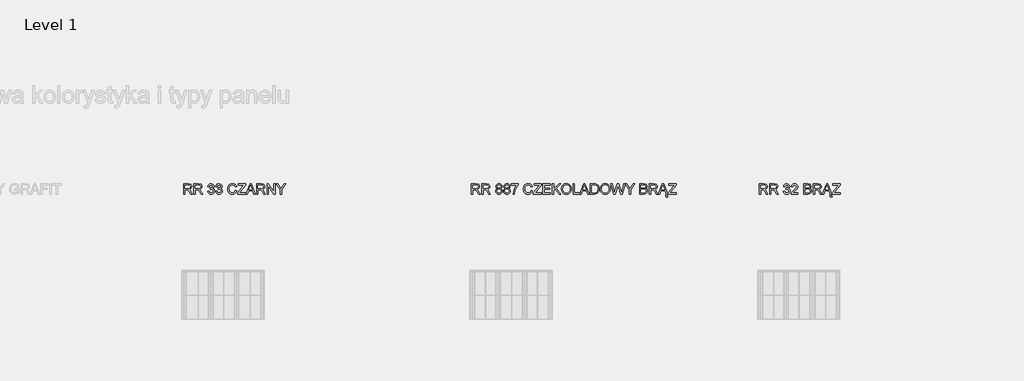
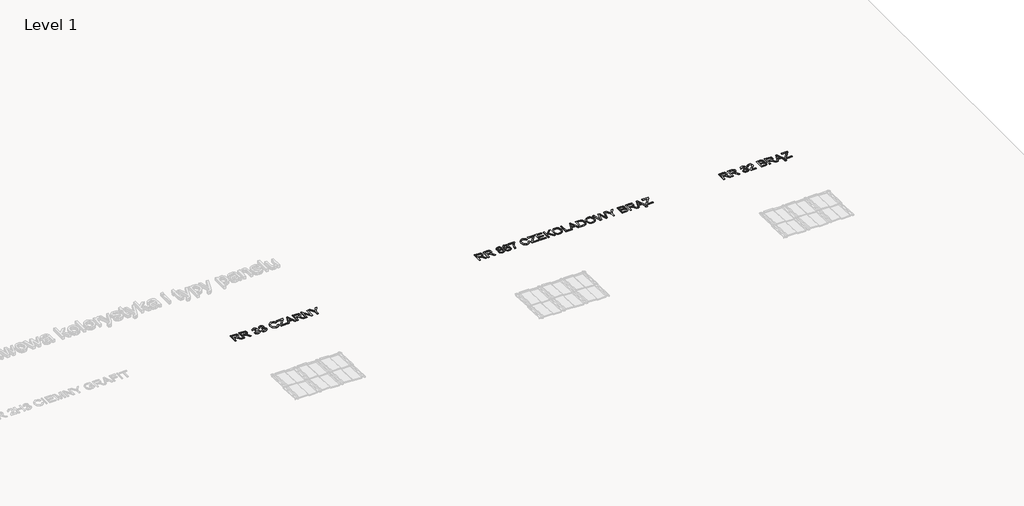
# One storey, part 8 of 9: 3 proxies.
"""IFC4 building model written with IfcOpenShell, lengths in millimetres."""

from ifc_helpers import new_model, si_unit, frame, origin, place, context, project, spatial, polyline, outline, extrude, element, save

model = new_model("IFC4")

# Units and contexts
model_context = context("Model", 3, world=origin())
ifc_project = project(units=[si_unit("LENGTHUNIT", "METRE", prefix="MILLI")], contexts=[model_context])

# Site, building, storey
site = spatial("IfcSite", under=ifc_project)
building = spatial("IfcBuilding", under=site)
storey = spatial("IfcBuildingStorey", under=building, Name="Level 1", Elevation=0.0)

# Proxies
placement = place(None, origin())
element("IfcBuildingElementProxy", 1, Name="150 Blue", ObjectType="150 Blue", at=placement, inside=storey, context=model_context, shape_type="SweptSolid", body=[
    extrude(outline(polyline([(-4536.4118342, 1464.3485888), (-4536.4118342, 1615.033054), (-4471.4806621, 1615.033054), (-4441.3327325, 1610.967958), (-4432.0529092, 1605.3393635), (-4424.8516192, 1596.583772), (-4420.2301016, 1585.7266546), (-4418.6895957, 1573.7934824), (-4421.2417771, 1558.9494439), (-4428.8983211, 1546.6437911), (-4441.8891541, 1537.6214852), (-4460.4442022, 1532.6274871), (-4449.7388361, 1524.5708714), (-4434.4717333, 1505.1834903), (-4409.3453931, 1464.3485888), (-4431.2343718, 1464.3485888), (-4450.8424821, 1495.5817702), (-4465.0059389, 1516.2567383), (-4474.9571469, 1526.0240053), (-4483.9150735, 1529.6108548), (-4494.8411687, 1530.2730423), (-4517.576276, 1530.2730423), (-4517.576276, 1464.3485888), (-4536.4118342, 1464.3485888)]), holes=[polyline([(-4517.576276, 1549.1086005), (-4475.4169994, 1549.1086005), (-4453.9142968, 1551.775745), (-4441.7006145, 1560.3106073), (-4437.5251539, 1573.0945066), (-4439.5163152, 1582.2823594), (-4445.4897991, 1589.6859846), (-4455.7675023, 1594.5696181), (-4470.6713217, 1596.1974959), (-4517.576276, 1596.1974959), (-4517.576276, 1549.1086005)])]), frame((0.0, 0.0, 600.0), z_axis=(0.0, 0.0, 1.0), x_axis=(1.0, 0.0, 0.0)), (0.0, 0.0, 1.0), 10.0),
    extrude(outline(polyline([(-4385.727369, 1464.3485888), (-4385.727369, 1615.033054), (-4320.7961968, 1615.033054), (-4290.6482673, 1610.967958), (-4281.368444, 1605.3393635), (-4274.1671539, 1596.583772), (-4269.5456364, 1585.7266546), (-4268.0051305, 1573.7934824), (-4270.5573119, 1558.9494439), (-4278.2138559, 1546.6437911), (-4291.2046888, 1537.6214852), (-4309.759737, 1532.6274871), (-4299.0543709, 1524.5708714), (-4283.7872681, 1505.1834903), (-4258.6609278, 1464.3485888), (-4280.5499066, 1464.3485888), (-4300.1580169, 1495.5817702), (-4314.3214737, 1516.2567383), (-4324.2726817, 1526.0240053), (-4333.2306083, 1529.6108548), (-4344.1567035, 1530.2730423), (-4366.8918108, 1530.2730423), (-4366.8918108, 1464.3485888), (-4385.727369, 1464.3485888)]), holes=[polyline([(-4366.8918108, 1549.1086005), (-4324.7325342, 1549.1086005), (-4303.2298316, 1551.775745), (-4291.0161493, 1560.3106073), (-4286.8406887, 1573.0945066), (-4288.83185, 1582.2823594), (-4294.8053339, 1589.6859846), (-4305.0830371, 1594.5696181), (-4319.9868564, 1596.1974959), (-4366.8918108, 1596.1974959), (-4366.8918108, 1549.1086005)])]), frame((0.0, 0.0, 600.0), z_axis=(0.0, 0.0, 1.0), x_axis=(1.0, 0.0, 0.0)), (0.0, 0.0, 1.0), 10.0),
    extrude(outline(polyline([(-4183.2451188, 1504.3741499), (-4164.4095607, 1506.7285947), (-4160.1927133, 1494.8919915), (-4154.0168943, 1486.8997551), (-4145.5786011, 1482.3472154), (-4134.5743309, 1480.8297022), (-4121.6616728, 1482.9174325), (-4111.6920708, 1489.1806235), (-4105.3185152, 1498.5248262), (-4103.1939967, 1509.8555916), (-4105.3001211, 1520.6115414), (-4111.6184944, 1529.3349433), (-4121.1834262, 1535.1152891), (-4133.0292265, 1537.0420711), (-4146.2361901, 1534.9819319), (-4144.1392627, 1553.81749), (-4141.1226304, 1553.5967608), (-4119.7486865, 1559.0046262), (-4112.6301699, 1565.8656254), (-4110.257331, 1575.6328924), (-4111.9771793, 1583.767683), (-4117.1367243, 1590.3665663), (-4125.009399, 1594.7397635), (-4134.8686365, 1596.1974959), (-4144.746268, 1594.7259679), (-4152.8212778, 1590.311384), (-4158.7165868, 1582.9537441), (-4162.0551159, 1572.6530482), (-4180.8906741, 1575.007493), (-4175.344853, 1591.9208677), (-4165.4764185, 1604.5484172), (-4151.9751492, 1612.4118948), (-4135.5308241, 1615.033054), (-4112.8141109, 1609.864312), (-4096.9216087, 1595.7376434), (-4091.4217728, 1576.7365383), (-4096.6456972, 1559.3725082), (-4112.096741, 1546.9013085), (-4100.306123, 1542.1372367), (-4091.5689256, 1534.0254387), (-4086.1610603, 1523.0073729), (-4084.3584385, 1509.5244978), (-4087.9636821, 1491.1671863), (-4098.7794127, 1475.8265071), (-4115.1041763, 1465.4522348), (-4135.2365185, 1461.994144), (-4153.4466772, 1464.9463971), (-4168.2723216, 1473.8031561), (-4178.5822145, 1487.3504106), (-4183.2451188, 1504.3741499)])), frame((0.0, 0.0, 600.0), z_axis=(0.0, 0.0, 1.0), x_axis=(1.0, 0.0, 0.0)), (0.0, 0.0, 1.0), 10.0),
    extrude(outline(polyline([(-4067.8773251, 1504.3741499), (-4049.041767, 1506.7285947), (-4044.8249196, 1494.8919915), (-4038.6491006, 1486.8997551), (-4030.2108074, 1482.3472154), (-4019.2065372, 1480.8297022), (-4006.2938792, 1482.9174325), (-3996.3242771, 1489.1806235), (-3989.9507215, 1498.5248262), (-3987.826203, 1509.8555916), (-3989.9323274, 1520.6115414), (-3996.2507007, 1529.3349433), (-4005.8156326, 1535.1152891), (-4017.6614328, 1537.0420711), (-4030.8683964, 1534.9819319), (-4028.7714691, 1553.81749), (-4025.7548367, 1553.5967608), (-4004.3808928, 1559.0046262), (-3997.2623762, 1565.8656254), (-3994.8895373, 1575.6328924), (-3996.6093856, 1583.767683), (-4001.7689306, 1590.3665663), (-4009.6416053, 1594.7397635), (-4019.5008428, 1596.1974959), (-4029.3784744, 1594.7259679), (-4037.4534841, 1590.311384), (-4043.3487931, 1582.9537441), (-4046.6873222, 1572.6530482), (-4065.5228804, 1575.007493), (-4059.9770593, 1591.9208677), (-4050.1086248, 1604.5484172), (-4036.6073556, 1612.4118948), (-4020.1630304, 1615.033054), (-3997.4463172, 1609.864312), (-3981.553815, 1595.7376434), (-3976.0539791, 1576.7365383), (-3981.2779035, 1559.3725082), (-3996.7289473, 1546.9013085), (-3984.9383293, 1542.1372367), (-3976.2011319, 1534.0254387), (-3970.7932666, 1523.0073729), (-3968.9906448, 1509.5244978), (-3972.5958884, 1491.1671863), (-3983.4116191, 1475.8265071), (-3999.7363826, 1465.4522348), (-4019.8687248, 1461.994144), (-4038.0788835, 1464.9463971), (-4052.9045279, 1473.8031561), (-4063.2144209, 1487.3504106), (-4067.8773251, 1504.3741499)])), frame((0.0, 0.0, 600.0), z_axis=(0.0, 0.0, 1.0), x_axis=(1.0, 0.0, 0.0)), (0.0, 0.0, 1.0), 10.0),
    extrude(outline(polyline([(-3780.6350633, 1517.9122073), (-3761.7995052, 1513.056165), (-3770.4907173, 1491.1074054), (-3784.1299423, 1475.072349), (-3802.0457954, 1465.2636953), (-3823.5668921, 1461.994144), (-3845.4144841, 1464.4681505), (-3862.7647187, 1471.8901697), (-3876.0636529, 1484.0026844), (-3885.7573434, 1500.5481771), (-3891.675645, 1519.9999376), (-3893.6484122, 1540.8312556), (-3891.4181276, 1562.8030078), (-3884.7272738, 1581.7765217), (-3873.9253388, 1597.1493905), (-3859.3618103, 1608.3192076), (-3842.0897506, 1615.120426), (-3823.162222, 1617.3874988), (-3802.5102464, 1614.4536399), (-3785.4359233, 1605.6520632), (-3772.4726815, 1591.5253945), (-3764.1539499, 1572.61626), (-3782.9895081, 1568.1280997), (-3789.5194135, 1581.8638936), (-3798.4405519, 1591.2862712), (-3809.8632878, 1596.7355233), (-3823.8979859, 1598.5519407), (-3840.0755967, 1596.5377867), (-3853.3653338, 1590.495325), (-3863.449899, 1581.0591518), (-3870.011994, 1568.8638636), (-3874.8128541, 1540.8680438), (-3873.3919099, 1523.4672254), (-3869.1290773, 1508.4208518), (-3861.8634078, 1496.3037386), (-3851.4339533, 1487.6907014), (-3838.930564, 1482.544952), (-3825.4430903, 1480.8297022), (-3809.7207336, 1483.1657529), (-3796.619536, 1490.1739049), (-3786.7281089, 1501.7805818), (-3780.6350633, 1517.9122073)])), frame((0.0, 0.0, 600.0), z_axis=(0.0, 0.0, 1.0), x_axis=(1.0, 0.0, 0.0)), (0.0, 0.0, 1.0), 10.0),
    extrude(outline(polyline([(-3747.6728365, 1464.3485888), (-3747.6728365, 1483.8831228), (-3670.6383468, 1578.2816427), (-3655.9966433, 1596.1974959), (-3738.2550575, 1596.1974959), (-3738.2550575, 1615.033054), (-3632.3050429, 1615.033054), (-3632.3050429, 1596.1974959), (-3716.6235962, 1492.8962316), (-3724.5698472, 1483.184147), (-3629.9505981, 1483.184147), (-3629.9505981, 1464.3485888), (-3747.6728365, 1464.3485888)])), frame((0.0, 0.0, 600.0), z_axis=(0.0, 0.0, 1.0), x_axis=(1.0, 0.0, 0.0)), (0.0, 0.0, 1.0), 10.0),
    extrude(outline(polyline([(-3626.2717781, 1464.3485888), (-3566.1230719, 1615.033054), (-3550.0834169, 1615.033054), (-3489.9714989, 1464.3485888), (-3509.8739149, 1464.3485888), (-3527.0907922, 1511.4374842), (-3589.189273, 1511.4374842), (-3606.4061504, 1464.3485888), (-3626.2717781, 1464.3485888)]), holes=[polyline([(-3582.2730915, 1530.2730423), (-3533.9701855, 1530.2730423), (-3547.5818194, 1567.3187593), (-3558.1400326, 1596.1974959), (-3567.5210235, 1570.5561208), (-3582.2730915, 1530.2730423)])]), frame((0.0, 0.0, 600.0), z_axis=(0.0, 0.0, 1.0), x_axis=(1.0, 0.0, 0.0)), (0.0, 0.0, 1.0), 10.0),
    extrude(outline(polyline([(-3469.8483538, 1464.3485888), (-3469.8483538, 1615.033054), (-3404.9171816, 1615.033054), (-3374.7692521, 1610.967958), (-3365.4894288, 1605.3393635), (-3358.2881387, 1596.583772), (-3353.6666212, 1585.7266546), (-3352.1261153, 1573.7934824), (-3354.6782967, 1558.9494439), (-3362.3348407, 1546.6437911), (-3375.3256737, 1537.6214852), (-3393.8807218, 1532.6274871), (-3383.1753557, 1524.5708714), (-3367.9082529, 1505.1834903), (-3342.7819127, 1464.3485888), (-3364.6708914, 1464.3485888), (-3384.2790017, 1495.5817702), (-3398.4424585, 1516.2567383), (-3408.3936665, 1526.0240053), (-3417.3515931, 1529.6108548), (-3428.2776883, 1530.2730423), (-3451.0127956, 1530.2730423), (-3451.0127956, 1464.3485888), (-3469.8483538, 1464.3485888)]), holes=[polyline([(-3451.0127956, 1549.1086005), (-3408.853519, 1549.1086005), (-3387.3508164, 1551.775745), (-3375.1371341, 1560.3106073), (-3370.9616735, 1573.0945066), (-3372.9528348, 1582.2823594), (-3378.9263187, 1589.6859846), (-3389.2040219, 1594.5696181), (-3404.1078412, 1596.1974959), (-3451.0127956, 1596.1974959), (-3451.0127956, 1549.1086005)])]), frame((0.0, 0.0, 600.0), z_axis=(0.0, 0.0, 1.0), x_axis=(1.0, 0.0, 0.0)), (0.0, 0.0, 1.0), 10.0),
    extrude(outline(polyline([(-3319.1638886, 1464.3485888), (-3319.1638886, 1615.033054), (-3299.0039552, 1615.033054), (-3220.2772083, 1495.6553466), (-3220.2772083, 1615.033054), (-3201.4416501, 1615.033054), (-3201.4416501, 1464.3485888), (-3221.6015834, 1464.3485888), (-3300.3283304, 1583.7630844), (-3300.3283304, 1464.3485888), (-3319.1638886, 1464.3485888)])), frame((0.0, 0.0, 600.0), z_axis=(0.0, 0.0, 1.0), x_axis=(1.0, 0.0, 0.0)), (0.0, 0.0, 1.0), 10.0),
    extrude(outline(polyline([(-3126.0994175, 1464.3485888), (-3126.0994175, 1528.176115), (-3184.9605367, 1615.033054), (-3162.7772524, 1615.033054), (-3131.36013, 1568.6431344), (-3115.2836868, 1544.951534), (-3099.1336672, 1570.3353916), (-3070.6228126, 1615.033054), (-3048.4027401, 1615.033054), (-3107.2638593, 1528.176115), (-3107.2638593, 1464.3485888), (-3126.0994175, 1464.3485888)])), frame((0.0, 0.0, 600.0), z_axis=(0.0, 0.0, 1.0), x_axis=(1.0, 0.0, 0.0)), (0.0, 0.0, 1.0), 10.0),
])
element("IfcBuildingElementProxy", 2, Name="150 Blue", ObjectType="150 Blue", at=placement, inside=storey, context=model_context, shape_type="SweptSolid", body=[
    extrude(outline(polyline([(-336.4118342, 1464.3485888), (-336.4118342, 1615.033054), (-271.4806621, 1615.033054), (-241.3327325, 1610.967958), (-232.0529092, 1605.3393635), (-224.8516192, 1596.583772), (-220.2301016, 1585.7266546), (-218.6895957, 1573.7934824), (-221.2417771, 1558.9494439), (-228.8983211, 1546.6437911), (-241.8891541, 1537.6214852), (-260.4442022, 1532.6274871), (-249.7388361, 1524.5708714), (-234.4717333, 1505.1834903), (-209.3453931, 1464.3485888), (-231.2343718, 1464.3485888), (-250.8424821, 1495.5817702), (-265.0059389, 1516.2567383), (-274.9571469, 1526.0240053), (-283.9150735, 1529.6108548), (-294.8411687, 1530.2730423), (-317.576276, 1530.2730423), (-317.576276, 1464.3485888), (-336.4118342, 1464.3485888)]), holes=[polyline([(-317.576276, 1549.1086005), (-275.4169994, 1549.1086005), (-253.9142968, 1551.775745), (-241.7006145, 1560.3106073), (-237.5251539, 1573.0945066), (-239.5163152, 1582.2823594), (-245.4897991, 1589.6859846), (-255.7675023, 1594.5696181), (-270.6713217, 1596.1974959), (-317.576276, 1596.1974959), (-317.576276, 1549.1086005)])]), frame((0.0, 0.0, 600.0), z_axis=(0.0, 0.0, 1.0), x_axis=(1.0, 0.0, 0.0)), (0.0, 0.0, 1.0), 10.0),
    extrude(outline(polyline([(-185.727369, 1464.3485888), (-185.727369, 1615.033054), (-120.7961968, 1615.033054), (-90.6482673, 1610.967958), (-81.368444, 1605.3393635), (-74.1671539, 1596.583772), (-69.5456364, 1585.7266546), (-68.0051305, 1573.7934824), (-70.5573119, 1558.9494439), (-78.2138559, 1546.6437911), (-91.2046888, 1537.6214852), (-109.759737, 1532.6274871), (-99.0543709, 1524.5708714), (-83.7872681, 1505.1834903), (-58.6609278, 1464.3485888), (-80.5499066, 1464.3485888), (-100.1580169, 1495.5817702), (-114.3214737, 1516.2567383), (-124.2726817, 1526.0240053), (-133.2306083, 1529.6108548), (-144.1567035, 1530.2730423), (-166.8918108, 1530.2730423), (-166.8918108, 1464.3485888), (-185.727369, 1464.3485888)]), holes=[polyline([(-166.8918108, 1549.1086005), (-124.7325342, 1549.1086005), (-103.2298316, 1551.775745), (-91.0161493, 1560.3106073), (-86.8406887, 1573.0945066), (-88.83185, 1582.2823594), (-94.8053339, 1589.6859846), (-105.0830371, 1594.5696181), (-119.9868564, 1596.1974959), (-166.8918108, 1596.1974959), (-166.8918108, 1549.1086005)])]), frame((0.0, 0.0, 600.0), z_axis=(0.0, 0.0, 1.0), x_axis=(1.0, 0.0, 0.0)), (0.0, 0.0, 1.0), 10.0),
    extrude(outline(polyline([(44.198878, 1547.3427669), (27.0371829, 1559.0414144), (21.4637707, 1577.2515731), (24.4987972, 1591.97605), (33.6038765, 1604.143747), (47.7581363, 1612.3107273), (65.9407039, 1615.033054), (84.2336361, 1612.2463479), (98.5718369, 1603.8862296), (107.8424632, 1591.5253945), (110.9326719, 1576.7365383), (105.4328361, 1558.9862321), (88.7493876, 1547.3427669), (100.342269, 1541.369283), (108.7805623, 1532.5723048), (113.9263117, 1521.3748966), (115.6415615, 1508.2001226), (112.238653, 1490.192299), (102.0299276, 1475.3114723), (86.2661842, 1465.3234761), (66.1982213, 1461.994144), (46.1302585, 1465.3372717), (30.366515, 1475.3666546), (20.1577896, 1490.3900355), (16.7548812, 1508.7151574), (18.5391088, 1522.4003677), (23.8917919, 1533.6575567), (32.5370188, 1542.1004485), (44.198878, 1547.3427669)]), holes=[polyline([(40.2993289, 1576.6997501), (41.9685934, 1568.4775875), (46.9763871, 1561.9108939), (55.175557, 1557.6066746), (66.4189505, 1556.1719348), (77.4002281, 1557.5974775), (85.4752379, 1561.8741057), (90.4416448, 1568.2200702), (92.0971138, 1575.8536216), (90.3864625, 1583.77688), (85.2545087, 1590.3297781), (77.0691343, 1594.7305664), (66.1982213, 1596.1974959), (55.2583305, 1594.7627561), (47.0867517, 1590.4585368), (41.9961846, 1584.1493605), (40.2993289, 1576.6997501)]), polyline([(35.5904393, 1509.377345), (38.7358304, 1495.1954941), (49.8642607, 1484.5820985), (66.3453741, 1480.8297022), (79.1660616, 1482.8024694), (88.7861758, 1488.720771), (94.8010464, 1497.6832961), (96.8060033, 1508.7887338), (94.7366671, 1520.0827111), (88.5286584, 1529.2429728), (78.6878151, 1535.3130257), (65.7199747, 1537.3363767), (53.0786297, 1535.3406168), (43.5550845, 1529.3533374), (37.5816006, 1520.3678196), (35.5904393, 1509.377345)])]), frame((0.0, 0.0, 600.0), z_axis=(0.0, 0.0, 1.0), x_axis=(1.0, 0.0, 0.0)), (0.0, 0.0, 1.0), 10.0),
    extrude(outline(polyline([(159.5666717, 1547.3427669), (142.4049766, 1559.0414144), (136.8315644, 1577.2515731), (139.8665909, 1591.97605), (148.9716702, 1604.143747), (163.12593, 1612.3107273), (181.3084976, 1615.033054), (199.6014298, 1612.2463479), (213.9396306, 1603.8862296), (223.2102569, 1591.5253945), (226.3004656, 1576.7365383), (220.8006298, 1558.9862321), (204.1171813, 1547.3427669), (215.7100627, 1541.369283), (224.1483559, 1532.5723048), (229.2941054, 1521.3748966), (231.0093552, 1508.2001226), (227.6064467, 1490.192299), (217.3977213, 1475.3114723), (201.6339778, 1465.3234761), (181.566015, 1461.994144), (161.4980522, 1465.3372717), (145.7343087, 1475.3666546), (135.5255833, 1490.3900355), (132.1226749, 1508.7151574), (133.9069025, 1522.4003677), (139.2595856, 1533.6575567), (147.9048124, 1542.1004485), (159.5666717, 1547.3427669)]), holes=[polyline([(155.6671225, 1576.6997501), (157.3363871, 1568.4775875), (162.3441808, 1561.9108939), (170.5433507, 1557.6066746), (181.7867442, 1556.1719348), (192.7680218, 1557.5974775), (200.8430316, 1561.8741057), (205.8094385, 1568.2200702), (207.4649075, 1575.8536216), (205.7542562, 1583.77688), (200.6223024, 1590.3297781), (192.436928, 1594.7305664), (181.566015, 1596.1974959), (170.6261242, 1594.7627561), (162.4545454, 1590.4585368), (157.3639782, 1584.1493605), (155.6671225, 1576.6997501)]), polyline([(150.958233, 1509.377345), (154.1036241, 1495.1954941), (165.2320544, 1484.5820985), (181.7131678, 1480.8297022), (194.5338553, 1482.8024694), (204.1539695, 1488.720771), (210.1688401, 1497.6832961), (212.173797, 1508.7887338), (210.1044608, 1520.0827111), (203.8964521, 1529.2429728), (194.0556087, 1535.3130257), (181.0877684, 1537.3363767), (168.4464234, 1535.3406168), (158.9228782, 1529.3533374), (152.9493943, 1520.3678196), (150.958233, 1509.377345)])]), frame((0.0, 0.0, 600.0), z_axis=(0.0, 0.0, 1.0), x_axis=(1.0, 0.0, 0.0)), (0.0, 0.0, 1.0), 10.0),
    extrude(outline(polyline([(247.4904685, 1593.8430511), (247.4904685, 1612.6786093), (346.3771488, 1612.6786093), (346.3771488, 1597.4482947), (318.3261467, 1556.9260929), (306.0158954, 1531.4640603), (296.8602323, 1505.2938549), (289.8704744, 1464.3485888), (271.0349162, 1464.3485888), (278.5213148, 1506.8389593), (287.2355196, 1531.2985134), (299.0675243, 1554.8659537), (327.5415907, 1593.8430511), (247.4904685, 1593.8430511)])), frame((0.0, 0.0, 600.0), z_axis=(0.0, 0.0, 1.0), x_axis=(1.0, 0.0, 0.0)), (0.0, 0.0, 1.0), 10.0),
    extrude(outline(polyline([(534.7327304, 1517.9122073), (553.5682885, 1513.056165), (544.8770764, 1491.1074054), (531.2378514, 1475.072349), (513.3219983, 1465.2636953), (491.8009015, 1461.994144), (469.9533096, 1464.4681505), (452.603075, 1471.8901697), (439.3041408, 1484.0026844), (429.6104503, 1500.5481771), (423.6921487, 1519.9999376), (421.7193815, 1540.8312556), (423.9496661, 1562.8030078), (430.6405198, 1581.7765217), (441.4424549, 1597.1493905), (456.0059834, 1608.3192076), (473.2780431, 1615.120426), (492.2055717, 1617.3874988), (512.8575472, 1614.4536399), (529.9318703, 1605.6520632), (542.8951121, 1591.5253945), (551.2138438, 1572.61626), (532.3782856, 1568.1280997), (525.8483802, 1581.8638936), (516.9272418, 1591.2862712), (505.5045059, 1596.7355233), (491.4698077, 1598.5519407), (475.292197, 1596.5377867), (462.0024599, 1590.495325), (451.9178947, 1581.0591518), (445.3557996, 1568.8638636), (440.5549396, 1540.8680438), (441.9758838, 1523.4672254), (446.2387164, 1508.4208518), (453.5043858, 1496.3037386), (463.9338404, 1487.6907014), (476.4372297, 1482.544952), (489.9247034, 1480.8297022), (505.6470601, 1483.1657529), (518.7482577, 1490.1739049), (528.6396848, 1501.7805818), (534.7327304, 1517.9122073)])), frame((0.0, 0.0, 600.0), z_axis=(0.0, 0.0, 1.0), x_axis=(1.0, 0.0, 0.0)), (0.0, 0.0, 1.0), 10.0),
    extrude(outline(polyline([(567.6949571, 1464.3485888), (567.6949571, 1483.8831228), (644.7294469, 1578.2816427), (659.3711503, 1596.1974959), (577.1127362, 1596.1974959), (577.1127362, 1615.033054), (683.0627508, 1615.033054), (683.0627508, 1596.1974959), (598.7441975, 1492.8962316), (590.7979464, 1483.184147), (685.4171956, 1483.184147), (685.4171956, 1464.3485888), (567.6949571, 1464.3485888)])), frame((0.0, 0.0, 600.0), z_axis=(0.0, 0.0, 1.0), x_axis=(1.0, 0.0, 0.0)), (0.0, 0.0, 1.0), 10.0),
    extrude(outline(polyline([(706.6071985, 1464.3485888), (706.6071985, 1615.033054), (814.9116579, 1615.033054), (814.9116579, 1596.1974959), (725.4427567, 1596.1974959), (725.4427567, 1551.4630453), (810.2027684, 1551.4630453), (810.2027684, 1532.6274871), (725.4427567, 1532.6274871), (725.4427567, 1483.184147), (817.2661027, 1483.184147), (817.2661027, 1464.3485888), (706.6071985, 1464.3485888)])), frame((0.0, 0.0, 600.0), z_axis=(0.0, 0.0, 1.0), x_axis=(1.0, 0.0, 0.0)), (0.0, 0.0, 1.0), 10.0),
    extrude(outline(polyline([(845.5194399, 1464.3485888), (845.5194399, 1615.033054), (864.3549981, 1615.033054), (864.3549981, 1541.272714), (941.610217, 1615.033054), (967.9505679, 1615.033054), (903.0561839, 1553.081726), (970.3050127, 1464.3485888), (947.2755998, 1464.3485888), (889.7020675, 1540.353009), (864.3549981, 1516.1463737), (864.3549981, 1464.3485888), (845.5194399, 1464.3485888)])), frame((0.0, 0.0, 600.0), z_axis=(0.0, 0.0, 1.0), x_axis=(1.0, 0.0, 0.0)), (0.0, 0.0, 1.0), 10.0),
    extrude(outline(polyline([(977.368347, 1537.7042587), (982.3899362, 1571.0251704), (988.6669227, 1584.643702), (997.4547039, 1596.2342841), (1020.4565257, 1612.0991951), (1049.289277, 1617.3874988), (1069.0537372, 1614.9042953), (1086.7764523, 1607.4546849), (1101.4917321, 1595.5628994), (1112.2338864, 1579.7531707), (1118.80058, 1560.7888538), (1120.9894779, 1539.433304), (1118.6856169, 1517.7926457), (1111.7740339, 1498.5616144), (1100.6364065, 1482.7242945), (1085.6544123, 1471.2647703), (1068.0834485, 1464.3118006), (1049.1789124, 1461.994144), (1029.1109496, 1464.5555224), (1011.2870669, 1472.2396576), (996.6085753, 1484.3521723), (985.9767857, 1500.1986892), (979.5204566, 1518.4318406), (977.368347, 1537.7042587)]), holes=[polyline([(996.2039051, 1537.5203177), (999.9700971, 1513.9482788), (1011.2686728, 1495.9864404), (1028.2510254, 1484.6188867), (1049.0685478, 1480.8297022), (1070.1895729, 1484.6556749), (1087.1995166, 1496.1335932), (1098.415319, 1514.6472546), (1102.1539197, 1539.5804568), (1100.5536331, 1556.2547083), (1095.752773, 1570.6664854), (1087.8754998, 1582.4525048), (1077.0459736, 1591.249483), (1063.9815642, 1596.7263263), (1049.3996416, 1598.5519407), (1029.1385407, 1595.0340691), (1011.9124663, 1584.4804543), (1000.1310454, 1565.704677), (996.2039051, 1537.5203177)])]), frame((0.0, 0.0, 600.0), z_axis=(0.0, 0.0, 1.0), x_axis=(1.0, 0.0, 0.0)), (0.0, 0.0, 1.0), 10.0),
    extrude(outline(polyline([(1146.8883704, 1464.3485888), (1146.8883704, 1615.033054), (1165.7239285, 1615.033054), (1165.7239285, 1483.184147), (1241.0661611, 1483.184147), (1241.0661611, 1464.3485888), (1146.8883704, 1464.3485888)])), frame((0.0, 0.0, 600.0), z_axis=(0.0, 0.0, 1.0), x_axis=(1.0, 0.0, 0.0)), (0.0, 0.0, 1.0), 10.0),
    extrude(outline(polyline([(1244.7449811, 1464.3485888), (1304.8936873, 1615.033054), (1320.9333423, 1615.033054), (1381.0452603, 1464.3485888), (1361.1428443, 1464.3485888), (1343.925967, 1511.4374842), (1281.8274862, 1511.4374842), (1264.6106088, 1464.3485888), (1244.7449811, 1464.3485888)]), holes=[polyline([(1288.7436677, 1530.2730423), (1337.0465737, 1530.2730423), (1323.4349398, 1567.3187593), (1312.8767266, 1596.1974959), (1303.4957357, 1570.5561208), (1288.7436677, 1530.2730423)])]), frame((0.0, 0.0, 600.0), z_axis=(0.0, 0.0, 1.0), x_axis=(1.0, 0.0, 0.0)), (0.0, 0.0, 1.0), 10.0),
    extrude(outline(polyline([(1401.1684054, 1464.3485888), (1401.1684054, 1615.033054), (1453.1501313, 1615.033054), (1480.0423052, 1612.8625503), (1502.1888013, 1602.0836078), (1512.6090588, 1590.6056896), (1520.0310781, 1576.3318681), (1524.4732531, 1559.5380551), (1525.9539782, 1540.5001618), (1521.9440644, 1510.0947149), (1511.6433686, 1488.1505539), (1497.8845819, 1474.4837378), (1479.8767583, 1466.9237628), (1455.6517289, 1464.3485888), (1401.1684054, 1464.3485888)]), holes=[polyline([(1420.0039636, 1483.184147), (1453.3340723, 1483.184147), (1477.5774958, 1485.9064737), (1491.5570116, 1493.5952074), (1503.0165358, 1512.3020069), (1507.11842, 1540.7944674), (1505.1088646, 1561.3222827), (1499.0801984, 1576.4790209), (1490.1728556, 1586.8900814), (1479.5272704, 1593.1808635), (1452.8190375, 1596.1974959), (1420.0039636, 1596.1974959), (1420.0039636, 1483.184147)])]), frame((0.0, 0.0, 600.0), z_axis=(0.0, 0.0, 1.0), x_axis=(1.0, 0.0, 0.0)), (0.0, 0.0, 1.0), 10.0),
    extrude(outline(polyline([(1544.7895363, 1537.7042587), (1549.8111256, 1571.0251704), (1556.0881121, 1584.643702), (1564.8758933, 1596.2342841), (1587.877715, 1612.0991951), (1616.7104664, 1617.3874988), (1636.4749266, 1614.9042953), (1654.1976417, 1607.4546849), (1668.9129215, 1595.5628994), (1679.6550758, 1579.7531707), (1686.2217694, 1560.7888538), (1688.4106673, 1539.433304), (1686.1068063, 1517.7926457), (1679.1952233, 1498.5616144), (1668.0575959, 1482.7242945), (1653.0756016, 1471.2647703), (1635.5046378, 1464.3118006), (1616.6001018, 1461.994144), (1596.532139, 1464.5555224), (1578.7082563, 1472.2396576), (1564.0297647, 1484.3521723), (1553.397975, 1500.1986892), (1546.941646, 1518.4318406), (1544.7895363, 1537.7042587)]), holes=[polyline([(1563.6250945, 1537.5203177), (1567.3912864, 1513.9482788), (1578.6898622, 1495.9864404), (1595.6722148, 1484.6188867), (1616.4897372, 1480.8297022), (1637.6107622, 1484.6556749), (1654.620706, 1496.1335932), (1665.8365083, 1514.6472546), (1669.5751091, 1539.5804568), (1667.9748224, 1556.2547083), (1663.1739624, 1570.6664854), (1655.2966892, 1582.4525048), (1644.4671629, 1591.249483), (1631.4027536, 1596.7263263), (1616.820831, 1598.5519407), (1596.5597301, 1595.0340691), (1579.3336557, 1584.4804543), (1567.5522348, 1565.704677), (1563.6250945, 1537.5203177)])]), frame((0.0, 0.0, 600.0), z_axis=(0.0, 0.0, 1.0), x_axis=(1.0, 0.0, 0.0)), (0.0, 0.0, 1.0), 10.0),
    extrude(outline(polyline([(1741.27531, 1464.3485888), (1700.1828911, 1615.033054), (1719.6070604, 1615.033054), (1743.4458137, 1515.9992209), (1750.8034536, 1485.4282271), (1758.6761283, 1512.4675538), (1788.5481463, 1615.033054), (1816.5439662, 1615.033054), (1838.2490039, 1540.6841028), (1854.3990235, 1485.4282271), (1861.5359342, 1515.1163041), (1885.5586285, 1615.033054), (1905.019586, 1615.033054), (1863.9639553, 1464.3485888), (1843.804022, 1464.3485888), (1807.6412219, 1580.5992993), (1802.6012386, 1596.8228953), (1796.9358558, 1577.2883613), (1764.0104173, 1464.3485888), (1741.27531, 1464.3485888)])), frame((0.0, 0.0, 600.0), z_axis=(0.0, 0.0, 1.0), x_axis=(1.0, 0.0, 0.0)), (0.0, 0.0, 1.0), 10.0),
    extrude(outline(polyline([(1966.23515, 1464.3485888), (1966.23515, 1528.176115), (1907.3740308, 1615.033054), (1929.5573151, 1615.033054), (1960.9744375, 1568.6431344), (1977.0508807, 1544.951534), (1993.2009003, 1570.3353916), (2021.7117549, 1615.033054), (2043.9318274, 1615.033054), (1985.0707082, 1528.176115), (1985.0707082, 1464.3485888), (1966.23515, 1464.3485888)])), frame((0.0, 0.0, 600.0), z_axis=(0.0, 0.0, 1.0), x_axis=(1.0, 0.0, 0.0)), (0.0, 0.0, 1.0), 10.0),
    extrude(outline(polyline([(2119.27406, 1464.3485888), (2119.27406, 1615.033054), (2176.7740158, 1615.033054), (2204.9353826, 1610.600076), (2214.3991469, 1604.97608), (2221.5636488, 1596.9700481), (2227.5785194, 1577.6930315), (2222.5201419, 1560.0898781), (2207.234645, 1546.7541557), (2217.9078214, 1541.1807435), (2225.7942917, 1532.7010635), (2230.6641296, 1521.8761358), (2232.2874089, 1509.2669804), (2227.8544309, 1489.0150766), (2216.8731533, 1474.5941024), (2200.4840104, 1466.9421569), (2176.3325575, 1464.3485888), (2119.27406, 1464.3485888)]), holes=[polyline([(2138.1096182, 1553.81749), (2172.5065847, 1553.81749), (2192.5929416, 1555.4361708), (2204.6778652, 1562.4075346), (2208.7429612, 1574.6763992), (2204.9537767, 1586.9636578), (2194.1012578, 1594.2293272), (2169.8946225, 1596.1974959), (2138.1096182, 1596.1974959), (2138.1096182, 1553.81749)]), polyline([(2138.1096182, 1483.184147), (2176.7372276, 1483.184147), (2190.7167435, 1483.919911), (2202.5441496, 1488.0217952), (2210.3800361, 1496.3911106), (2213.4518508, 1509.0830394), (2209.8466072, 1523.7247428), (2198.1663539, 1532.4619402), (2174.8978177, 1534.9819319), (2138.1096182, 1534.9819319), (2138.1096182, 1483.184147)])]), frame((0.0, 0.0, 600.0), z_axis=(0.0, 0.0, 1.0), x_axis=(1.0, 0.0, 0.0)), (0.0, 0.0, 1.0), 10.0),
    extrude(outline(polyline([(2258.1863014, 1464.3485888), (2258.1863014, 1615.033054), (2323.1174735, 1615.033054), (2353.265403, 1610.967958), (2362.5452264, 1605.3393635), (2369.7465164, 1596.583772), (2374.368034, 1585.7266546), (2375.9085398, 1573.7934824), (2373.3563585, 1558.9494439), (2365.6998145, 1546.6437911), (2352.7089815, 1537.6214852), (2334.1539334, 1532.6274871), (2344.8592994, 1524.5708714), (2360.1264022, 1505.1834903), (2385.2527425, 1464.3485888), (2363.3637638, 1464.3485888), (2343.7556535, 1495.5817702), (2329.5921966, 1516.2567383), (2319.6409887, 1526.0240053), (2310.6830621, 1529.6108548), (2299.7569668, 1530.2730423), (2277.0218595, 1530.2730423), (2277.0218595, 1464.3485888), (2258.1863014, 1464.3485888)]), holes=[polyline([(2277.0218595, 1549.1086005), (2319.1811362, 1549.1086005), (2340.6838388, 1551.775745), (2352.897521, 1560.3106073), (2357.0729817, 1573.0945066), (2355.0818204, 1582.2823594), (2349.1083365, 1589.6859846), (2338.8306332, 1594.5696181), (2323.9268139, 1596.1974959), (2277.0218595, 1596.1974959), (2277.0218595, 1549.1086005)])]), frame((0.0, 0.0, 600.0), z_axis=(0.0, 0.0, 1.0), x_axis=(1.0, 0.0, 0.0)), (0.0, 0.0, 1.0), 10.0),
    extrude(outline(polyline([(2391.3595836, 1464.3485888), (2451.5082898, 1615.033054), (2467.5479448, 1615.033054), (2527.6598628, 1464.3485888), (2524.7535951, 1464.3485888), (2515.6853039, 1455.2435094), (2512.4663364, 1444.2622319), (2514.7655989, 1436.7942274), (2522.2152093, 1433.7408068), (2526.9240989, 1434.4029944), (2531.3018946, 1436.168828), (2531.3018946, 1423.1825936), (2518.094931, 1419.6141382), (2509.43131, 1421.1224544), (2503.2508925, 1425.2795209), (2499.5536784, 1431.3679679), (2498.3396678, 1438.7440019), (2502.0184878, 1452.1165125), (2512.4295482, 1464.3485888), (2507.7574469, 1464.3485888), (2490.5405695, 1511.4374842), (2428.4420887, 1511.4374842), (2411.2252114, 1464.3485888), (2391.3595836, 1464.3485888)]), holes=[polyline([(2435.3582703, 1530.2730423), (2483.6611762, 1530.2730423), (2470.0495424, 1567.3187593), (2459.4913291, 1596.1974959), (2450.1103383, 1570.5561208), (2435.3582703, 1530.2730423)])]), frame((0.0, 0.0, 600.0), z_axis=(0.0, 0.0, 1.0), x_axis=(1.0, 0.0, 0.0)), (0.0, 0.0, 1.0), 10.0),
    extrude(outline(polyline([(2536.0107841, 1464.3485888), (2536.0107841, 1483.8831228), (2613.0452739, 1578.2816427), (2627.6869773, 1596.1974959), (2545.4285632, 1596.1974959), (2545.4285632, 1615.033054), (2651.3785778, 1615.033054), (2651.3785778, 1596.1974959), (2567.0600245, 1492.8962316), (2559.1137734, 1483.184147), (2653.7330226, 1483.184147), (2653.7330226, 1464.3485888), (2536.0107841, 1464.3485888)])), frame((0.0, 0.0, 600.0), z_axis=(0.0, 0.0, 1.0), x_axis=(1.0, 0.0, 0.0)), (0.0, 0.0, 1.0), 10.0),
])
element("IfcBuildingElementProxy", 3, Name="150 Blue", ObjectType="150 Blue", at=placement, inside=storey, context=model_context, shape_type="SweptSolid", body=[
    extrude(outline(polyline([(3863.5881658, 1464.3485888), (3863.5881658, 1615.033054), (3928.5193379, 1615.033054), (3958.6672675, 1610.967958), (3967.9470908, 1605.3393635), (3975.1483808, 1596.583772), (3979.7698984, 1585.7266546), (3981.3104043, 1573.7934824), (3978.7582229, 1558.9494439), (3971.1016789, 1546.6437911), (3958.1108459, 1537.6214852), (3939.5557978, 1532.6274871), (3950.2611639, 1524.5708714), (3965.5282667, 1505.1834903), (3990.6546069, 1464.3485888), (3968.7656282, 1464.3485888), (3949.1575179, 1495.5817702), (3934.9940611, 1516.2567383), (3925.0428531, 1526.0240053), (3916.0849265, 1529.6108548), (3905.1588313, 1530.2730423), (3882.423724, 1530.2730423), (3882.423724, 1464.3485888), (3863.5881658, 1464.3485888)]), holes=[polyline([(3882.423724, 1549.1086005), (3924.5830006, 1549.1086005), (3946.0857032, 1551.775745), (3958.2993855, 1560.3106073), (3962.4748461, 1573.0945066), (3960.4836848, 1582.2823594), (3954.5102009, 1589.6859846), (3944.2324977, 1594.5696181), (3929.3286783, 1596.1974959), (3882.423724, 1596.1974959), (3882.423724, 1549.1086005)])]), frame((0.0, 0.0, 600.0), z_axis=(0.0, 0.0, 1.0), x_axis=(1.0, 0.0, 0.0)), (0.0, 0.0, 1.0), 10.0),
    extrude(outline(polyline([(4014.272631, 1464.3485888), (4014.272631, 1615.033054), (4079.2038032, 1615.033054), (4109.3517327, 1610.967958), (4118.631556, 1605.3393635), (4125.8328461, 1596.583772), (4130.4543636, 1585.7266546), (4131.9948695, 1573.7934824), (4129.4426881, 1558.9494439), (4121.7861441, 1546.6437911), (4108.7953112, 1537.6214852), (4090.240263, 1532.6274871), (4100.9456291, 1524.5708714), (4116.2127319, 1505.1834903), (4141.3390722, 1464.3485888), (4119.4500934, 1464.3485888), (4099.8419831, 1495.5817702), (4085.6785263, 1516.2567383), (4075.7273183, 1526.0240053), (4066.7693917, 1529.6108548), (4055.8432965, 1530.2730423), (4033.1081892, 1530.2730423), (4033.1081892, 1464.3485888), (4014.272631, 1464.3485888)]), holes=[polyline([(4033.1081892, 1549.1086005), (4075.2674658, 1549.1086005), (4096.7701684, 1551.775745), (4108.9838507, 1560.3106073), (4113.1593113, 1573.0945066), (4111.16815, 1582.2823594), (4105.1946661, 1589.6859846), (4094.9169629, 1594.5696181), (4080.0131436, 1596.1974959), (4033.1081892, 1596.1974959), (4033.1081892, 1549.1086005)])]), frame((0.0, 0.0, 600.0), z_axis=(0.0, 0.0, 1.0), x_axis=(1.0, 0.0, 0.0)), (0.0, 0.0, 1.0), 10.0),
    extrude(outline(polyline([(4216.7548812, 1504.3741499), (4235.5904393, 1506.7285947), (4239.8072867, 1494.8919915), (4245.9831057, 1486.8997551), (4254.4213989, 1482.3472154), (4265.4256691, 1480.8297022), (4278.3383272, 1482.9174325), (4288.3079292, 1489.1806235), (4294.6814848, 1498.5248262), (4296.8060033, 1509.8555916), (4294.6998789, 1520.6115414), (4288.3815056, 1529.3349433), (4278.8165738, 1535.1152891), (4266.9707735, 1537.0420711), (4253.7638099, 1534.9819319), (4255.8607373, 1553.81749), (4258.8773696, 1553.5967608), (4280.2513135, 1559.0046262), (4287.3698301, 1565.8656254), (4289.742669, 1575.6328924), (4288.0228207, 1583.767683), (4282.8632757, 1590.3665663), (4274.990601, 1594.7397635), (4265.1313635, 1596.1974959), (4255.253732, 1594.7259679), (4247.1787222, 1590.311384), (4241.2834132, 1582.9537441), (4237.9448841, 1572.6530482), (4219.1093259, 1575.007493), (4224.655147, 1591.9208677), (4234.5235815, 1604.5484172), (4248.0248508, 1612.4118948), (4264.4691759, 1615.033054), (4287.1858891, 1609.864312), (4303.0783913, 1595.7376434), (4308.5782272, 1576.7365383), (4303.3543028, 1559.3725082), (4287.903259, 1546.9013085), (4299.693877, 1542.1372367), (4308.4310744, 1534.0254387), (4313.8389397, 1523.0073729), (4315.6415615, 1509.5244978), (4312.0363179, 1491.1671863), (4301.2205873, 1475.8265071), (4284.8958237, 1465.4522348), (4264.7634815, 1461.994144), (4246.5533228, 1464.9463971), (4231.7276784, 1473.8031561), (4221.4177855, 1487.3504106), (4216.7548812, 1504.3741499)])), frame((0.0, 0.0, 600.0), z_axis=(0.0, 0.0, 1.0), x_axis=(1.0, 0.0, 0.0)), (0.0, 0.0, 1.0), 10.0),
    extrude(outline(polyline([(4428.6549104, 1483.184147), (4428.6549104, 1464.3485888), (4329.7682301, 1464.3485888), (4331.7915811, 1477.3348232), (4343.2511052, 1497.3292097), (4366.8507352, 1519.1630061), (4399.3531095, 1550.5433403), (4405.436958, 1561.3590709), (4407.4649075, 1571.880496), (4405.5473226, 1581.3120707), (4399.7945679, 1589.1525557), (4390.9516044, 1594.4362608), (4379.7633932, 1596.1974959), (4368.014162, 1594.4776476), (4358.88609, 1589.3181026), (4352.9953796, 1581.1235311), (4350.958233, 1570.2986034), (4332.1226749, 1572.6530482), (4336.6890101, 1590.872404), (4346.5620432, 1604.1805352), (4361.2267392, 1612.3199243), (4380.1680634, 1615.033054), (4399.2473434, 1612.0164217), (4413.8844483, 1602.9665246), (4423.1964613, 1589.4468613), (4426.3004656, 1573.0209302), (4422.9527395, 1555.1602593), (4411.8243091, 1536.6925832), (4384.8401648, 1510.8856612), (4363.1719152, 1492.7674729), (4354.6738412, 1483.184147), (4428.6549104, 1483.184147)])), frame((0.0, 0.0, 600.0), z_axis=(0.0, 0.0, 1.0), x_axis=(1.0, 0.0, 0.0)), (0.0, 0.0, 1.0), 10.0),
    extrude(outline(polyline([(4513.4149221, 1464.3485888), (4513.4149221, 1615.033054), (4570.9148779, 1615.033054), (4599.0762447, 1610.600076), (4608.540009, 1604.97608), (4615.7045108, 1596.9700481), (4621.7193815, 1577.6930315), (4616.661004, 1560.0898781), (4601.3755071, 1546.7541557), (4612.0486835, 1541.1807435), (4619.9351538, 1532.7010635), (4624.8049917, 1521.8761358), (4626.428271, 1509.2669804), (4621.995293, 1489.0150766), (4611.0140154, 1474.5941024), (4594.6248725, 1466.9421569), (4570.4734195, 1464.3485888), (4513.4149221, 1464.3485888)]), holes=[polyline([(4532.2504802, 1553.81749), (4566.6474468, 1553.81749), (4586.7338037, 1555.4361708), (4598.8187273, 1562.4075346), (4602.8838233, 1574.6763992), (4599.0946388, 1586.9636578), (4588.2421199, 1594.2293272), (4564.0354846, 1596.1974959), (4532.2504802, 1596.1974959), (4532.2504802, 1553.81749)]), polyline([(4532.2504802, 1483.184147), (4570.8780897, 1483.184147), (4584.8576055, 1483.919911), (4596.6850117, 1488.0217952), (4604.5208982, 1496.3911106), (4607.5927128, 1509.0830394), (4603.9874693, 1523.7247428), (4592.3072159, 1532.4619402), (4569.0386797, 1534.9819319), (4532.2504802, 1534.9819319), (4532.2504802, 1483.184147)])]), frame((0.0, 0.0, 600.0), z_axis=(0.0, 0.0, 1.0), x_axis=(1.0, 0.0, 0.0)), (0.0, 0.0, 1.0), 10.0),
    extrude(outline(polyline([(4652.3271635, 1464.3485888), (4652.3271635, 1615.033054), (4717.2583356, 1615.033054), (4747.4062651, 1610.967958), (4756.6860884, 1605.3393635), (4763.8873785, 1596.583772), (4768.5088961, 1585.7266546), (4770.0494019, 1573.7934824), (4767.4972206, 1558.9494439), (4759.8406765, 1546.6437911), (4746.8498436, 1537.6214852), (4728.2947955, 1532.6274871), (4739.0001615, 1524.5708714), (4754.2672643, 1505.1834903), (4779.3936046, 1464.3485888), (4757.5046259, 1464.3485888), (4737.8965155, 1495.5817702), (4723.7330587, 1516.2567383), (4713.7818508, 1526.0240053), (4704.8239242, 1529.6108548), (4693.8978289, 1530.2730423), (4671.1627216, 1530.2730423), (4671.1627216, 1464.3485888), (4652.3271635, 1464.3485888)]), holes=[polyline([(4671.1627216, 1549.1086005), (4713.3219983, 1549.1086005), (4734.8247009, 1551.775745), (4747.0383831, 1560.3106073), (4751.2138438, 1573.0945066), (4749.2226825, 1582.2823594), (4743.2491986, 1589.6859846), (4732.9714953, 1594.5696181), (4718.067676, 1596.1974959), (4671.1627216, 1596.1974959), (4671.1627216, 1549.1086005)])]), frame((0.0, 0.0, 600.0), z_axis=(0.0, 0.0, 1.0), x_axis=(1.0, 0.0, 0.0)), (0.0, 0.0, 1.0), 10.0),
    extrude(outline(polyline([(4785.5004457, 1464.3485888), (4845.6491519, 1615.033054), (4861.6888069, 1615.033054), (4921.8007249, 1464.3485888), (4918.8944572, 1464.3485888), (4909.826166, 1455.2435094), (4906.6071985, 1444.2622319), (4908.906461, 1436.7942274), (4916.3560714, 1433.7408068), (4921.0649609, 1434.4029944), (4925.4427567, 1436.168828), (4925.4427567, 1423.1825936), (4912.235793, 1419.6141382), (4903.5721721, 1421.1224544), (4897.3917545, 1425.2795209), (4893.6945405, 1431.3679679), (4892.4805299, 1438.7440019), (4896.1593499, 1452.1165125), (4906.5704103, 1464.3485888), (4901.898309, 1464.3485888), (4884.6814316, 1511.4374842), (4822.5829508, 1511.4374842), (4805.3660735, 1464.3485888), (4785.5004457, 1464.3485888)]), holes=[polyline([(4829.4991323, 1530.2730423), (4877.8020383, 1530.2730423), (4864.1904045, 1567.3187593), (4853.6321912, 1596.1974959), (4844.2512003, 1570.5561208), (4829.4991323, 1530.2730423)])]), frame((0.0, 0.0, 600.0), z_axis=(0.0, 0.0, 1.0), x_axis=(1.0, 0.0, 0.0)), (0.0, 0.0, 1.0), 10.0),
    extrude(outline(polyline([(4930.1516462, 1464.3485888), (4930.1516462, 1483.8831228), (5007.186136, 1578.2816427), (5021.8278394, 1596.1974959), (4939.5694253, 1596.1974959), (4939.5694253, 1615.033054), (5045.5194399, 1615.033054), (5045.5194399, 1596.1974959), (4961.2008866, 1492.8962316), (4953.2546355, 1483.184147), (5047.8738847, 1483.184147), (5047.8738847, 1464.3485888), (4930.1516462, 1464.3485888)])), frame((0.0, 0.0, 600.0), z_axis=(0.0, 0.0, 1.0), x_axis=(1.0, 0.0, 0.0)), (0.0, 0.0, 1.0), 10.0),
])

save(model, "model.ifc")
